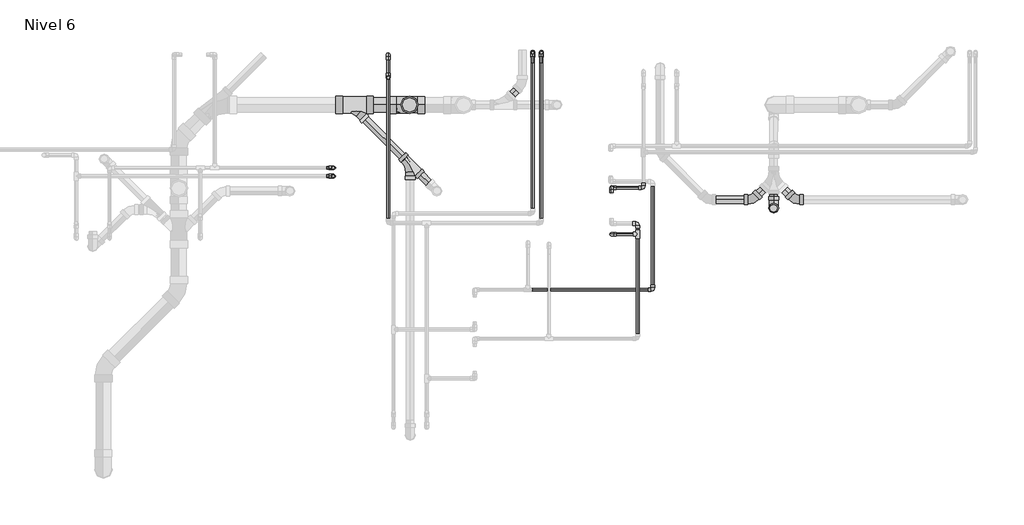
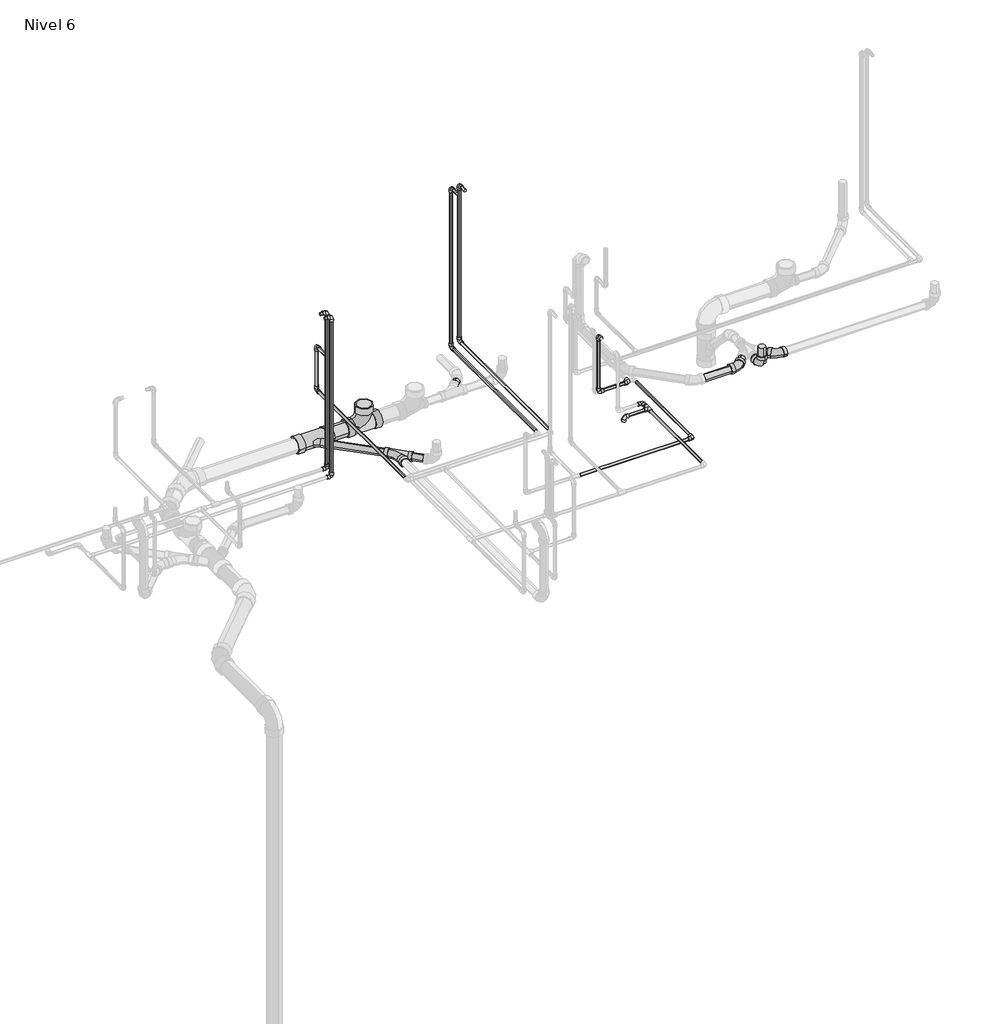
# One storey, part 5 of 11: 32 pipe segments, 24 pipe fittings.
"""IFC4 building model written with IfcOpenShell, lengths in millimetres."""

from ifc_helpers import new_model, si_unit, point, frame, frame_2d, origin, place, context, project, spatial, circle_curve, trimmed, segment, composite_curve, outline, extrude, transform, mapped, element, save
from components import pipe_fitting_ab418b84, pipe_fitting_0163322b, pipe_fitting_2a8dfbef, pipe_fitting_ef5974f2, m_codo_pvc_serie_40_9ad74631, m_codo_pvc_serie_40_dwv1_5c0ec739, m_codo_pvc_serie_40_dwv1_6f1a2495

model = new_model("IFC4")

# Units and contexts
model_context = context("Model", 3, world=origin())
ifc_project = project(units=[si_unit("LENGTHUNIT", "METRE", prefix="MILLI")], contexts=[model_context])

# Site, building, storey
site = spatial("IfcSite", under=ifc_project)
building = spatial("IfcBuilding", under=site)
storey = spatial("IfcBuildingStorey", under=building, Name="Nivel 6", Elevation=13400.0)

# Pipe fittings
placement = place(None, origin())
pipe_fitting_shape = pipe_fitting_ab418b84(model_context)
element("IfcPipeFitting", 1, ObjectType="M_Te - PVC - Serie 40 : Estándar", at=placement, inside=storey, context=model_context, shape_type="MappedRepresentation", body=[
    mapped(pipe_fitting_shape, transform((6459.9908844, 5630.9035113, 13350.0), x_axis=(0.0, 1.0, 0.0), y_axis=(1.0, 0.0, 0.0), z_axis=(0.0, 0.0, -1.0))),
])
pipe_fitting_2_shape = pipe_fitting_0163322b(model_context)
element("IfcPipeFitting", 2, ObjectType="M_Sanitario con te de reducción - PVC - Serie 40 - DWV : Estándar", at=placement, inside=storey, context=model_context, shape_type="MappedRepresentation", body=[
    mapped(pipe_fitting_2_shape, transform((4835.094316, 6132.0580366, 13250.0), x_axis=(0.7071067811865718, -0.7071067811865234, 0.0), y_axis=(0.7071067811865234, 0.7071067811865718, 0.0), z_axis=(0.0, 0.0, 1.0))),
])
pipe_fitting_3_shape = pipe_fitting_2a8dfbef(model_context)
element("IfcPipeFitting", 3, ObjectType="M_Sanitario con te de reducción - PVC - Serie 40 - DWV : Estándar", at=placement, inside=storey, context=model_context, shape_type="MappedRepresentation", body=[
    mapped(pipe_fitting_3_shape, transform((4831.2907555, 6555.7039726, 13250.0), x_axis=(1.0, 0.0, 0.0), y_axis=(0.0, 0.0, -1.0), z_axis=(0.0, 1.0, 0.0))),
])
pipe_fitting_4_shape = pipe_fitting_ef5974f2(model_context)
element("IfcPipeFitting", 4, ObjectType="M_Sanitario con te de reducción - PVC - Serie 40 - DWV : Estándar", at=placement, inside=storey, context=model_context, shape_type="MappedRepresentation", body=[
    mapped(pipe_fitting_4_shape, transform((4411.4483799, 6555.7039726, 13250.0), x_axis=(1.0, 0.0, 0.0), y_axis=(0.0, 1.0, 0.0), z_axis=(0.0, 0.0, 1.0))),
])
m_codo_pvc_serie_40_shape = m_codo_pvc_serie_40_9ad74631(model_context)
element("IfcPipeFitting", 5, ObjectType="M_Codo - PVC - Serie 40 : Estándar", at=placement, inside=storey, context=model_context, shape_type="MappedRepresentation", body=[
    mapped(m_codo_pvc_serie_40_shape, transform((4288.6334401, 6105.419153, 13350.0), x_axis=(1.0, 0.0, 0.0), y_axis=(0.0, 0.0, 1.0), z_axis=(0.0, -1.0, 0.0))),
])
element("IfcPipeFitting", 6, ObjectType="M_Codo - PVC - Serie 40 : Estándar", at=placement, inside=storey, context=model_context, shape_type="MappedRepresentation", body=[
    mapped(m_codo_pvc_serie_40_shape, transform((4288.6334401, 6105.419153, 14600.0), x_axis=(0.0, 0.0, 1.0), y_axis=(-1.0, 0.0, 0.0), z_axis=(0.0, -1.0, 0.0))),
])
element("IfcPipeFitting", 7, ObjectType="M_Codo - PVC - Serie 40 : Estándar", at=placement, inside=storey, context=model_context, shape_type="MappedRepresentation", body=[
    mapped(m_codo_pvc_serie_40_shape, transform((4288.6334401, 6045.419153, 14600.0), x_axis=(0.0, 0.0, 1.0), y_axis=(-1.0, 0.0, 0.0), z_axis=(0.0, -1.0, 0.0))),
])
element("IfcPipeFitting", 8, ObjectType="M_Codo - PVC - Serie 40 : Estándar", at=placement, inside=storey, context=model_context, shape_type="MappedRepresentation", body=[
    mapped(m_codo_pvc_serie_40_shape, transform((4288.6334401, 6045.419153, 13320.0), x_axis=(0.0, 0.0, -1.0), y_axis=(-1.0, 0.0, 0.0), z_axis=(0.0, 1.0, 0.0))),
])
element("IfcPipeFitting", 9, ObjectType="M_Codo - PVC - Serie 40 : Estándar", at=placement, inside=storey, context=model_context, shape_type="MappedRepresentation", body=[
    mapped(m_codo_pvc_serie_40_shape, transform((6273.0126322, 5963.0981896, 13800.0), x_axis=(0.0, 1.0, 0.0), y_axis=(0.0, 0.0, -1.0), z_axis=(-1.0, 0.0, 0.0))),
])
element("IfcPipeFitting", 10, ObjectType="M_Codo - PVC - Serie 40 : Estándar", at=placement, inside=storey, context=model_context, shape_type="MappedRepresentation", body=[
    mapped(m_codo_pvc_serie_40_shape, transform((6501.6215833, 5963.0981896, 13350.0), x_axis=(1.0, 0.0, 0.0), y_axis=(0.0, 1.0, 0.0), z_axis=(0.0, 0.0, 1.0))),
])
element("IfcPipeFitting", 11, ObjectType="M_Codo - PVC - Serie 40 : Estándar", at=placement, inside=storey, context=model_context, shape_type="MappedRepresentation", body=[
    mapped(m_codo_pvc_serie_40_shape, transform((6273.0126322, 5963.0981896, 13350.0), x_axis=(0.0, 0.0, -1.0), y_axis=(1.0, 0.0, 0.0), z_axis=(0.0, -1.0, 0.0))),
])
element("IfcPipeFitting", 12, ObjectType="M_Codo - PVC - Serie 40 : Estándar", at=placement, inside=storey, context=model_context, shape_type="MappedRepresentation", body=[
    mapped(m_codo_pvc_serie_40_shape, transform((5773.0126322, 6931.6711332, 13350.0), x_axis=(0.0, 1.0, 0.0), y_axis=(0.0, 0.0, 1.0), z_axis=(1.0, 0.0, 0.0))),
])
element("IfcPipeFitting", 13, ObjectType="M_Codo - PVC - Serie 40 : Estándar", at=placement, inside=storey, context=model_context, shape_type="MappedRepresentation", body=[
    mapped(m_codo_pvc_serie_40_shape, transform((5773.0126322, 6931.6711332, 14600.0), x_axis=(0.0, 0.0, 1.0), y_axis=(0.0, -1.0, 0.0), z_axis=(1.0, 0.0, 0.0))),
])
element("IfcPipeFitting", 14, ObjectType="M_Codo - PVC - Serie 40 : Estándar", at=placement, inside=storey, context=model_context, shape_type="MappedRepresentation", body=[
    mapped(m_codo_pvc_serie_40_shape, transform((5711.6896051, 6931.6711332, 13320.0), x_axis=(0.0, 1.0, 0.0), y_axis=(0.0, 0.0, 1.0), z_axis=(1.0, 0.0, 0.0))),
])
element("IfcPipeFitting", 15, ObjectType="M_Codo - PVC - Serie 40 : Estándar", at=placement, inside=storey, context=model_context, shape_type="MappedRepresentation", body=[
    mapped(m_codo_pvc_serie_40_shape, transform((5711.6896051, 6931.6711332, 14600.0), x_axis=(0.0, 0.0, 1.0), y_axis=(0.0, -1.0, 0.0), z_axis=(1.0, 0.0, 0.0))),
])
element("IfcPipeFitting", 16, ObjectType="M_Codo - PVC - Serie 40 : Estándar", at=placement, inside=storey, context=model_context, shape_type="MappedRepresentation", body=[
    mapped(m_codo_pvc_serie_40_shape, transform((4677.808318, 6748.6807861, 13700.0), x_axis=(0.0, 0.0, -1.0), y_axis=(0.0, 1.0, 0.0), z_axis=(1.0, 0.0, 0.0))),
])
element("IfcPipeFitting", 17, ObjectType="M_Codo - PVC - Serie 40 : Estándar", at=placement, inside=storey, context=model_context, shape_type="MappedRepresentation", body=[
    mapped(m_codo_pvc_serie_40_shape, transform((4677.808318, 6913.6807861, 13700.0), x_axis=(0.0, 1.0, 0.0), y_axis=(0.0, 0.0, -1.0), z_axis=(-1.0, 0.0, 0.0))),
])
element("IfcPipeFitting", 18, ObjectType="M_Codo - PVC - Serie 40 : Estándar", at=placement, inside=storey, context=model_context, shape_type="MappedRepresentation", body=[
    mapped(m_codo_pvc_serie_40_shape, transform((4677.808318, 6913.6807861, 13350.0), x_axis=(0.0, 0.0, -1.0), y_axis=(0.0, -1.0, 0.0), z_axis=(-1.0, 0.0, 0.0))),
])
element("IfcPipeFitting", 19, ObjectType="M_Codo - PVC - Serie 40 : Estándar", at=placement, inside=storey, context=model_context, shape_type="MappedRepresentation", body=[
    mapped(m_codo_pvc_serie_40_shape, transform((6567.9182604, 5234.4268515, 13320.0), x_axis=(1.0, 0.0, 0.0), y_axis=(0.0, 1.0, 0.0), z_axis=(0.0, 0.0, 1.0))),
])
element("IfcPipeFitting", 20, ObjectType="M_Codo - PVC - Serie 40 : Estándar", at=placement, inside=storey, context=model_context, shape_type="MappedRepresentation", body=[
    mapped(m_codo_pvc_serie_40_shape, transform((6459.9908844, 5708.0981896, 13350.0), x_axis=(0.0, 1.0, 0.0), y_axis=(-1.0, 0.0, 0.0), z_axis=(0.0, 0.0, 1.0))),
])
element("IfcPipeFitting", 21, ObjectType="M_Codo - PVC - Serie 40 : Estándar", at=placement, inside=storey, context=model_context, shape_type="MappedRepresentation", body=[
    mapped(m_codo_pvc_serie_40_shape, transform((6273.0126322, 5630.9035113, 13350.0), x_axis=(-1.0, 0.0, 0.0), y_axis=(0.0, 0.0002933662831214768, -0.9999999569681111), z_axis=(0.0, -0.9999999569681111, -0.0002933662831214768))),
])
m_codo_pvc_serie_40_dwv1_shape = m_codo_pvc_serie_40_dwv1_5c0ec739(model_context)
element("IfcPipeFitting", 22, ObjectType="M_Codo - PVC - Serie 40 - DWV1 : Estándar 2", at=placement, inside=storey, context=model_context, shape_type="MappedRepresentation", body=[
    mapped(m_codo_pvc_serie_40_dwv1_shape, transform((7431.4931519, 5816.7854242, 13250.0), x_axis=(0.0, -1.0, 0.0), y_axis=(0.0, 0.0, 1.0), z_axis=(-1.0, 0.0, 0.0))),
])
m_codo_pvc_serie_40_dwv1_2_shape = m_codo_pvc_serie_40_dwv1_6f1a2495(model_context)
element("IfcPipeFitting", 23, ObjectType="M_Codo - PVC - Serie 40 - DWV1 : Estándar 2", at=placement, inside=storey, context=model_context, shape_type="MappedRepresentation", body=[
    mapped(m_codo_pvc_serie_40_dwv1_2_shape, transform((7281.5940722, 5877.7956387, 13250.0), x_axis=(1.0, 0.0, 0.0), y_axis=(0.0, 1.0, 0.0), z_axis=(0.0, 0.0, 1.0))),
])
element("IfcPipeFitting", 24, ObjectType="M_Codo - PVC - Serie 40 - DWV1 : Estándar 2", at=placement, inside=storey, context=model_context, shape_type="MappedRepresentation", body=[
    mapped(m_codo_pvc_serie_40_dwv1_2_shape, transform((7581.3922316, 5877.7956387, 13250.0), x_axis=(0.7071067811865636, -0.7071067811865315, 0.0), y_axis=(0.7071067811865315, 0.7071067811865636, 0.0), z_axis=(0.0, 0.0, 1.0))),
])

# Pipe segments
element("IfcPipeSegment", 25, ObjectType="Tuberia PVC Agua Fria", at=placement, inside=storey, context=model_context, shape_type="SweptSolid", body=[
    extrude(outline(composite_curve([segment(trimmed(circle_curve(frame_2d((6105.419153, 14600.0)), 10.31875), [point((6115.737903, 14600.0))], [point((6105.419153, 14589.68125))], False, "CARTESIAN"), True, "CONTINUOUS"), segment(trimmed(circle_curve(frame_2d((6105.419153, 14600.0)), 10.31875), [point((6105.419153, 14589.68125))], [point((6095.100403, 14600.0))], False, "CARTESIAN"), True, "CONTINUOUS"), segment(trimmed(circle_curve(frame_2d((6105.419153, 14600.0)), 10.31875), [point((6095.100403, 14600.0))], [point((6105.419153, 14610.31875))], False, "CARTESIAN"), True, "CONTINUOUS"), segment(trimmed(circle_curve(frame_2d((6105.419153, 14600.0)), 10.31875), [point((6105.419153, 14610.31875))], [point((6115.737903, 14600.0))], False, "CARTESIAN"), True, "CONTINUOUS")], self_intersect=False)), frame((4238.6334401, 0.0, 0.0), z_axis=(1.0, 0.0, 0.0), x_axis=(0.0, 1.0, 0.0)), (0.0, 0.0, 1.0), 16.599),
])
element("IfcPipeSegment", 26, ObjectType="Tuberia PVC Agua Fria", at=placement, inside=storey, context=model_context, shape_type="SweptSolid", body=[
    extrude(outline(composite_curve([segment(trimmed(circle_curve(frame_2d((4288.6334401, 6105.419153)), 10.31875), [point((4278.3146901, 6105.419153))], [point((4288.6334401, 6115.737903))], False, "CARTESIAN"), True, "CONTINUOUS"), segment(trimmed(circle_curve(frame_2d((4288.6334401, 6105.419153)), 10.31875), [point((4288.6334401, 6115.737903))], [point((4298.9521901, 6105.419153))], False, "CARTESIAN"), True, "CONTINUOUS"), segment(trimmed(circle_curve(frame_2d((4288.6334401, 6105.419153)), 10.31875), [point((4298.9521901, 6105.419153))], [point((4288.6334401, 6095.100403))], False, "CARTESIAN"), True, "CONTINUOUS"), segment(trimmed(circle_curve(frame_2d((4288.6334401, 6105.419153)), 10.31875), [point((4288.6334401, 6095.100403))], [point((4278.3146901, 6105.419153))], False, "CARTESIAN"), True, "CONTINUOUS")], self_intersect=False)), frame((0.0, 0.0, 13383.401), z_axis=(0.0, 0.0, 1.0), x_axis=(1.0, 0.0, 0.0)), (0.0, 0.0, 1.0), 1183.198),
])
element("IfcPipeSegment", 27, ObjectType="Tuberia PVC Agua Fria", at=placement, inside=storey, context=model_context, shape_type="SweptSolid", body=[
    extrude(outline(composite_curve([segment(trimmed(circle_curve(frame_2d((5963.0981896, 13350.0)), 10.31875), [point((5973.4169396, 13350.0))], [point((5963.0981896, 13339.68125))], False, "CARTESIAN"), True, "CONTINUOUS"), segment(trimmed(circle_curve(frame_2d((5963.0981896, 13350.0)), 10.31875), [point((5963.0981896, 13339.68125))], [point((5952.7794396, 13350.0))], False, "CARTESIAN"), True, "CONTINUOUS"), segment(trimmed(circle_curve(frame_2d((5963.0981896, 13350.0)), 10.31875), [point((5952.7794396, 13350.0))], [point((5963.0981896, 13360.31875))], False, "CARTESIAN"), True, "CONTINUOUS"), segment(trimmed(circle_curve(frame_2d((5963.0981896, 13350.0)), 10.31875), [point((5963.0981896, 13360.31875))], [point((5973.4169396, 13350.0))], False, "CARTESIAN"), True, "CONTINUOUS")], self_intersect=False)), frame((6306.4136322, 0.0, 0.0), z_axis=(1.0, 0.0, 0.0), x_axis=(0.0, 1.0, 0.0)), (0.0, 0.0, 1.0), 161.8069512),
])
element("IfcPipeSegment", 28, ObjectType="Tuberia PVC Agua Fria", at=placement, inside=storey, context=model_context, shape_type="SweptSolid", body=[
    extrude(outline(composite_curve([segment(trimmed(circle_curve(frame_2d((6273.0126322, 5963.0981896)), 10.31875), [point((6283.3313822, 5963.0981896))], [point((6273.0126322, 5952.7794396))], False, "CARTESIAN"), True, "CONTINUOUS"), segment(trimmed(circle_curve(frame_2d((6273.0126322, 5963.0981896)), 10.31875), [point((6273.0126322, 5952.7794396))], [point((6262.6938822, 5963.0981896))], False, "CARTESIAN"), True, "CONTINUOUS"), segment(trimmed(circle_curve(frame_2d((6273.0126322, 5963.0981896)), 10.31875), [point((6262.6938822, 5963.0981896))], [point((6273.0126322, 5973.4169396))], False, "CARTESIAN"), True, "CONTINUOUS"), segment(trimmed(circle_curve(frame_2d((6273.0126322, 5963.0981896)), 10.31875), [point((6273.0126322, 5973.4169396))], [point((6283.3313822, 5963.0981896))], False, "CARTESIAN"), True, "CONTINUOUS")], self_intersect=False)), frame((0.0, 0.0, 13383.401), z_axis=(0.0, 0.0, 1.0), x_axis=(1.0, 0.0, 0.0)), (0.0, 0.0, 1.0), 383.198),
])
element("IfcPipeSegment", 29, ObjectType="Tuberia PVC Agua Fria", at=placement, inside=storey, context=model_context, shape_type="SweptSolid", body=[
    extrude(outline(composite_curve([segment(trimmed(circle_curve(frame_2d((13800.0, 6273.0126322)), 10.31875), [point((13800.0, 6283.3313822))], [point((13810.31875, 6273.0126322))], False, "CARTESIAN"), True, "CONTINUOUS"), segment(trimmed(circle_curve(frame_2d((13800.0, 6273.0126322)), 10.31875), [point((13810.31875, 6273.0126322))], [point((13800.0, 6262.6938822))], False, "CARTESIAN"), True, "CONTINUOUS"), segment(trimmed(circle_curve(frame_2d((13800.0, 6273.0126322)), 10.31875), [point((13800.0, 6262.6938822))], [point((13789.68125, 6273.0126322))], False, "CARTESIAN"), True, "CONTINUOUS"), segment(trimmed(circle_curve(frame_2d((13800.0, 6273.0126322)), 10.31875), [point((13789.68125, 6273.0126322))], [point((13800.0, 6283.3313822))], False, "CARTESIAN"), True, "CONTINUOUS")], self_intersect=False)), frame((0.0, 5741.4991896, 0.0), z_axis=(0.0, 1.0, 0.0), x_axis=(0.0, 0.0, 1.0)), (0.0, 0.0, 1.0), 2.599),
])
element("IfcPipeSegment", 30, ObjectType="Tuberia PVC Agua Fria", at=placement, inside=storey, context=model_context, shape_type="SweptSolid", body=[
    extrude(outline(composite_curve([segment(trimmed(circle_curve(frame_2d((13350.0, 5773.0126322)), 10.31875), [point((13350.0, 5783.3313822))], [point((13360.31875, 5773.0126322))], False, "CARTESIAN"), True, "CONTINUOUS"), segment(trimmed(circle_curve(frame_2d((13350.0, 5773.0126322)), 10.31875), [point((13360.31875, 5773.0126322))], [point((13350.0, 5762.6938822))], False, "CARTESIAN"), True, "CONTINUOUS"), segment(trimmed(circle_curve(frame_2d((13350.0, 5773.0126322)), 10.31875), [point((13350.0, 5762.6938822))], [point((13339.68125, 5773.0126322))], False, "CARTESIAN"), True, "CONTINUOUS"), segment(trimmed(circle_curve(frame_2d((13350.0, 5773.0126322)), 10.31875), [point((13339.68125, 5773.0126322))], [point((13350.0, 5783.3313822))], False, "CARTESIAN"), True, "CONTINUOUS")], self_intersect=False)), frame((0.0, 5743.2880077, 0.0), z_axis=(0.0, 1.0, 0.0), x_axis=(0.0, 0.0, 1.0)), (0.0, 0.0, 1.0), 1154.9821255),
])
element("IfcPipeSegment", 31, ObjectType="Tuberia PVC Agua Fria", at=placement, inside=storey, context=model_context, shape_type="SweptSolid", body=[
    extrude(outline(composite_curve([segment(trimmed(circle_curve(frame_2d((14600.0, 5773.0126322)), 10.31875), [point((14600.0, 5762.6938822))], [point((14589.68125, 5773.0126322))], False, "CARTESIAN"), True, "CONTINUOUS"), segment(trimmed(circle_curve(frame_2d((14600.0, 5773.0126322)), 10.31875), [point((14589.68125, 5773.0126322))], [point((14600.0, 5783.3313822))], False, "CARTESIAN"), True, "CONTINUOUS"), segment(trimmed(circle_curve(frame_2d((14600.0, 5773.0126322)), 10.31875), [point((14600.0, 5783.3313822))], [point((14610.31875, 5773.0126322))], False, "CARTESIAN"), True, "CONTINUOUS"), segment(trimmed(circle_curve(frame_2d((14600.0, 5773.0126322)), 10.31875), [point((14610.31875, 5773.0126322))], [point((14600.0, 5762.6938822))], False, "CARTESIAN"), True, "CONTINUOUS")], self_intersect=False)), frame((0.0, 6856.6711332, 0.0), z_axis=(0.0, 1.0, 0.0), x_axis=(0.0, 0.0, 1.0)), (0.0, 0.0, 1.0), 41.599),
])
element("IfcPipeSegment", 32, ObjectType="Tuberia PVC Agua Fria", at=placement, inside=storey, context=model_context, shape_type="SweptSolid", body=[
    extrude(outline(composite_curve([segment(trimmed(circle_curve(frame_2d((5773.0126322, 6931.6711332)), 10.31875), [point((5762.6938822, 6931.6711332))], [point((5773.0126322, 6941.9898832))], False, "CARTESIAN"), True, "CONTINUOUS"), segment(trimmed(circle_curve(frame_2d((5773.0126322, 6931.6711332)), 10.31875), [point((5773.0126322, 6941.9898832))], [point((5783.3313822, 6931.6711332))], False, "CARTESIAN"), True, "CONTINUOUS"), segment(trimmed(circle_curve(frame_2d((5773.0126322, 6931.6711332)), 10.31875), [point((5783.3313822, 6931.6711332))], [point((5773.0126322, 6921.3523832))], False, "CARTESIAN"), True, "CONTINUOUS"), segment(trimmed(circle_curve(frame_2d((5773.0126322, 6931.6711332)), 10.31875), [point((5773.0126322, 6921.3523832))], [point((5762.6938822, 6931.6711332))], False, "CARTESIAN"), True, "CONTINUOUS")], self_intersect=False)), frame((0.0, 0.0, 13383.401), z_axis=(0.0, 0.0, 1.0), x_axis=(1.0, 0.0, 0.0)), (0.0, 0.0, 1.0), 1183.198),
])
element("IfcPipeSegment", 33, ObjectType="Tuberia PVC Agua Fria", at=placement, inside=storey, context=model_context, shape_type="SweptSolid", body=[
    extrude(outline(composite_curve([segment(trimmed(circle_curve(frame_2d((13700.0, 4677.808318)), 10.31875), [point((13700.0, 4688.127068))], [point((13710.31875, 4677.808318))], False, "CARTESIAN"), True, "CONTINUOUS"), segment(trimmed(circle_curve(frame_2d((13700.0, 4677.808318)), 10.31875), [point((13710.31875, 4677.808318))], [point((13700.0, 4667.489568))], False, "CARTESIAN"), True, "CONTINUOUS"), segment(trimmed(circle_curve(frame_2d((13700.0, 4677.808318)), 10.31875), [point((13700.0, 4667.489568))], [point((13689.68125, 4677.808318))], False, "CARTESIAN"), True, "CONTINUOUS"), segment(trimmed(circle_curve(frame_2d((13700.0, 4677.808318)), 10.31875), [point((13689.68125, 4677.808318))], [point((13700.0, 4688.127068))], False, "CARTESIAN"), True, "CONTINUOUS")], self_intersect=False)), frame((0.0, 6782.0817861, 0.0), z_axis=(0.0, 1.0, 0.0), x_axis=(0.0, 0.0, 1.0)), (0.0, 0.0, 1.0), 98.198),
])
element("IfcPipeSegment", 34, ObjectType="Tuberia PVC Agua Fria", at=placement, inside=storey, context=model_context, shape_type="SweptSolid", body=[
    extrude(outline(composite_curve([segment(trimmed(circle_curve(frame_2d((4677.808318, 6748.6807861)), 10.31875), [point((4688.127068, 6748.6807861))], [point((4677.808318, 6738.3620361))], False, "CARTESIAN"), True, "CONTINUOUS"), segment(trimmed(circle_curve(frame_2d((4677.808318, 6748.6807861)), 10.31875), [point((4677.808318, 6738.3620361))], [point((4667.489568, 6748.6807861))], False, "CARTESIAN"), True, "CONTINUOUS"), segment(trimmed(circle_curve(frame_2d((4677.808318, 6748.6807861)), 10.31875), [point((4667.489568, 6748.6807861))], [point((4677.808318, 6758.9995361))], False, "CARTESIAN"), True, "CONTINUOUS"), segment(trimmed(circle_curve(frame_2d((4677.808318, 6748.6807861)), 10.31875), [point((4677.808318, 6758.9995361))], [point((4688.127068, 6748.6807861))], False, "CARTESIAN"), True, "CONTINUOUS")], self_intersect=False)), frame((0.0, 0.0, 13733.401), z_axis=(0.0, 0.0, 1.0), x_axis=(1.0, 0.0, 0.0)), (0.0, 0.0, 1.0), 39.7562509),
])
element("IfcPipeSegment", 35, ObjectType="Tuberia PVC Agua Fria", at=placement, inside=storey, context=model_context, shape_type="SweptSolid", body=[
    extrude(outline(composite_curve([segment(trimmed(circle_curve(frame_2d((13350.0, 4677.808318)), 10.31875), [point((13350.0, 4667.489568))], [point((13339.68125, 4677.808318))], False, "CARTESIAN"), True, "CONTINUOUS"), segment(trimmed(circle_curve(frame_2d((13350.0, 4677.808318)), 10.31875), [point((13339.68125, 4677.808318))], [point((13350.0, 4688.127068))], False, "CARTESIAN"), True, "CONTINUOUS"), segment(trimmed(circle_curve(frame_2d((13350.0, 4677.808318)), 10.31875), [point((13350.0, 4688.127068))], [point((13360.31875, 4677.808318))], False, "CARTESIAN"), True, "CONTINUOUS"), segment(trimmed(circle_curve(frame_2d((13350.0, 4677.808318)), 10.31875), [point((13360.31875, 4677.808318))], [point((13350.0, 4667.489568))], False, "CARTESIAN"), True, "CONTINUOUS")], self_intersect=False)), frame((0.0, 5743.2880077, 0.0), z_axis=(0.0, 1.0, 0.0), x_axis=(0.0, 0.0, 1.0)), (0.0, 0.0, 1.0), 1136.9917784),
])
element("IfcPipeSegment", 36, ObjectType="Tuberia PVC Agua Fria", at=placement, inside=storey, context=model_context, shape_type="SweptSolid", body=[
    extrude(outline(composite_curve([segment(trimmed(circle_curve(frame_2d((4677.808318, 6913.6807861)), 10.31875), [point((4688.127068, 6913.6807861))], [point((4677.808318, 6903.3620361))], False, "CARTESIAN"), True, "CONTINUOUS"), segment(trimmed(circle_curve(frame_2d((4677.808318, 6913.6807861)), 10.31875), [point((4677.808318, 6903.3620361))], [point((4667.489568, 6913.6807861))], False, "CARTESIAN"), True, "CONTINUOUS"), segment(trimmed(circle_curve(frame_2d((4677.808318, 6913.6807861)), 10.31875), [point((4667.489568, 6913.6807861))], [point((4677.808318, 6923.9995361))], False, "CARTESIAN"), True, "CONTINUOUS"), segment(trimmed(circle_curve(frame_2d((4677.808318, 6913.6807861)), 10.31875), [point((4677.808318, 6923.9995361))], [point((4688.127068, 6913.6807861))], False, "CARTESIAN"), True, "CONTINUOUS")], self_intersect=False)), frame((0.0, 0.0, 13383.401), z_axis=(0.0, 0.0, 1.0), x_axis=(1.0, 0.0, 0.0)), (0.0, 0.0, 1.0), 283.198),
])
element("IfcPipeSegment", 37, ObjectType="Tuberia PVC Agua Fria", at=placement, inside=storey, context=model_context, shape_type="SweptSolid", body=[
    extrude(outline(composite_curve([segment(trimmed(circle_curve(frame_2d((13350.0, 6459.9908844)), 10.31875), [point((13350.0, 6449.6721344))], [point((13339.68125, 6459.9908844))], False, "CARTESIAN"), True, "CONTINUOUS"), segment(trimmed(circle_curve(frame_2d((13350.0, 6459.9908844)), 10.31875), [point((13339.68125, 6459.9908844))], [point((13350.0, 6470.3096344))], False, "CARTESIAN"), True, "CONTINUOUS"), segment(trimmed(circle_curve(frame_2d((13350.0, 6459.9908844)), 10.31875), [point((13350.0, 6470.3096344))], [point((13360.31875, 6459.9908844))], False, "CARTESIAN"), True, "CONTINUOUS"), segment(trimmed(circle_curve(frame_2d((13350.0, 6459.9908844)), 10.31875), [point((13360.31875, 6459.9908844))], [point((13350.0, 6449.6721344))], False, "CARTESIAN"), True, "CONTINUOUS")], self_intersect=False)), frame((0.0, 4917.8278515, 0.0), z_axis=(0.0, 1.0, 0.0), x_axis=(0.0, 0.0, 1.0)), (0.0, 0.0, 1.0), 682.6155035),
])
element("IfcPipeSegment", 38, ObjectType="Tuberia PVC VENTILACION", at=placement, inside=storey, context=model_context, shape_type="SweptSolid", body=[
    extrude(outline(composite_curve([segment(trimmed(circle_curve(frame_2d((0.0, -26.9875)), 26.9875), [point((-26.9875, -26.9875))], [point((0.0, 0.0))], False, "CARTESIAN"), True, "CONTINUOUS"), segment(trimmed(circle_curve(frame_2d((0.0, -26.9875)), 26.9875), [point((0.0, 0.0))], [point((26.9875, -26.9875))], False, "CARTESIAN"), True, "CONTINUOUS"), segment(trimmed(circle_curve(frame_2d((0.0, -26.9875)), 26.9875), [point((26.9875, -26.9875))], [point((0.0, -53.975))], False, "CARTESIAN"), True, "CONTINUOUS"), segment(trimmed(circle_curve(frame_2d((0.0, -26.9875)), 26.9875), [point((0.0, -53.975))], [point((-26.9875, -26.9875))], False, "CARTESIAN"), True, "CONTINUOUS")], self_intersect=False)), frame((5566.0881067, 6632.6637824, 13223.0125), z_axis=(0.7071067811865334, 0.7071067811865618, 0.0), x_axis=(0.7071067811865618, -0.7071067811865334, 0.0)), (0.0, 0.0, 1.0), 38.8103242),
])
element("IfcPipeSegment", 39, ObjectType="Tuberia PVC Agua Fria", at=placement, inside=storey, context=model_context, shape_type="SweptSolid", body=[
    extrude(outline(composite_curve([segment(trimmed(circle_curve(frame_2d((5630.9035113, 13350.0)), 10.31875), [point((5641.2222613, 13350.0))], [point((5630.9035113, 13339.68125))], False, "CARTESIAN"), True, "CONTINUOUS"), segment(trimmed(circle_curve(frame_2d((5630.9035113, 13350.0)), 10.31875), [point((5630.9035113, 13339.68125))], [point((5620.5847613, 13350.0))], False, "CARTESIAN"), True, "CONTINUOUS"), segment(trimmed(circle_curve(frame_2d((5630.9035113, 13350.0)), 10.31875), [point((5620.5847613, 13350.0))], [point((5630.9035113, 13360.31875))], False, "CARTESIAN"), True, "CONTINUOUS"), segment(trimmed(circle_curve(frame_2d((5630.9035113, 13350.0)), 10.31875), [point((5630.9035113, 13360.31875))], [point((5641.2222613, 13350.0))], False, "CARTESIAN"), True, "CONTINUOUS")], self_intersect=False)), frame((6306.4136322, 0.0, 0.0), z_axis=(1.0, 0.0, 0.0), x_axis=(0.0, 1.0, 0.0)), (0.0, 0.0, 1.0), 123.117096),
])
element("IfcPipeSegment", 40, ObjectType="Tuberia PVC Agua Fria", at=placement, inside=storey, context=model_context, shape_type="SweptSolid", body=[
    extrude(outline(composite_curve([segment(trimmed(circle_curve(frame_2d((0.0, -10.31875)), 10.31875), [point((0.0, 0.0))], [point((10.31875, -10.31875))], False, "CARTESIAN"), True, "CONTINUOUS"), segment(trimmed(circle_curve(frame_2d((0.0, -10.31875)), 10.31875), [point((10.31875, -10.31875))], [point((0.0, -20.6375))], False, "CARTESIAN"), True, "CONTINUOUS"), segment(trimmed(circle_curve(frame_2d((0.0, -10.31875)), 10.31875), [point((0.0, -20.6375))], [point((-10.31875, -10.31875))], False, "CARTESIAN"), True, "CONTINUOUS"), segment(trimmed(circle_curve(frame_2d((0.0, -10.31875)), 10.31875), [point((-10.31875, -10.31875))], [point((0.0, 0.0))], False, "CARTESIAN"), True, "CONTINUOUS")], self_intersect=False)), frame((6449.6721344, 5661.3636675, 13350.0), z_axis=(1.941421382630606e-12, 1.0, 0.0), x_axis=(0.0, 0.0, -1.0)), (0.0, 0.0, 1.0), 13.3335221),
])
element("IfcPipeSegment", 41, ObjectType="Tuberia PVC Agua Caliente", at=placement, inside=storey, context=model_context, shape_type="SweptSolid", body=[
    extrude(outline(composite_curve([segment(trimmed(circle_curve(frame_2d((6045.419153, 14600.0)), 10.31875), [point((6055.737903, 14600.0))], [point((6045.419153, 14589.68125))], False, "CARTESIAN"), True, "CONTINUOUS"), segment(trimmed(circle_curve(frame_2d((6045.419153, 14600.0)), 10.31875), [point((6045.419153, 14589.68125))], [point((6035.100403, 14600.0))], False, "CARTESIAN"), True, "CONTINUOUS"), segment(trimmed(circle_curve(frame_2d((6045.419153, 14600.0)), 10.31875), [point((6035.100403, 14600.0))], [point((6045.419153, 14610.31875))], False, "CARTESIAN"), True, "CONTINUOUS"), segment(trimmed(circle_curve(frame_2d((6045.419153, 14600.0)), 10.31875), [point((6045.419153, 14610.31875))], [point((6055.737903, 14600.0))], False, "CARTESIAN"), True, "CONTINUOUS")], self_intersect=False)), frame((4238.6334401, 0.0, 0.0), z_axis=(1.0, 0.0, 0.0), x_axis=(0.0, 1.0, 0.0)), (0.0, 0.0, 1.0), 16.599),
])
element("IfcPipeSegment", 42, ObjectType="Tuberia PVC Agua Caliente", at=placement, inside=storey, context=model_context, shape_type="SweptSolid", body=[
    extrude(outline(composite_curve([segment(trimmed(circle_curve(frame_2d((4288.6334401, 6045.419153)), 10.31875), [point((4278.3146901, 6045.419153))], [point((4288.6334401, 6055.737903))], False, "CARTESIAN"), True, "CONTINUOUS"), segment(trimmed(circle_curve(frame_2d((4288.6334401, 6045.419153)), 10.31875), [point((4288.6334401, 6055.737903))], [point((4298.9521901, 6045.419153))], False, "CARTESIAN"), True, "CONTINUOUS"), segment(trimmed(circle_curve(frame_2d((4288.6334401, 6045.419153)), 10.31875), [point((4298.9521901, 6045.419153))], [point((4288.6334401, 6035.100403))], False, "CARTESIAN"), True, "CONTINUOUS"), segment(trimmed(circle_curve(frame_2d((4288.6334401, 6045.419153)), 10.31875), [point((4288.6334401, 6035.100403))], [point((4278.3146901, 6045.419153))], False, "CARTESIAN"), True, "CONTINUOUS")], self_intersect=False)), frame((0.0, 0.0, 13353.401), z_axis=(0.0, 0.0, 1.0), x_axis=(1.0, 0.0, 0.0)), (0.0, 0.0, 1.0), 1213.198),
])
element("IfcPipeSegment", 43, ObjectType="Tuberia PVC Agua Caliente", at=placement, inside=storey, context=model_context, shape_type="SweptSolid", body=[
    extrude(outline(composite_curve([segment(trimmed(circle_curve(frame_2d((13320.0, 6567.9182604)), 10.31875), [point((13320.0, 6557.5995104))], [point((13309.68125, 6567.9182604))], False, "CARTESIAN"), True, "CONTINUOUS"), segment(trimmed(circle_curve(frame_2d((13320.0, 6567.9182604)), 10.31875), [point((13309.68125, 6567.9182604))], [point((13320.0, 6578.2370104))], False, "CARTESIAN"), True, "CONTINUOUS"), segment(trimmed(circle_curve(frame_2d((13320.0, 6567.9182604)), 10.31875), [point((13320.0, 6578.2370104))], [point((13330.31875, 6567.9182604))], False, "CARTESIAN"), True, "CONTINUOUS"), segment(trimmed(circle_curve(frame_2d((13320.0, 6567.9182604)), 10.31875), [point((13330.31875, 6567.9182604))], [point((13320.0, 6557.5995104))], False, "CARTESIAN"), True, "CONTINUOUS")], self_intersect=False)), frame((0.0, 5267.8278515, 0.0), z_axis=(0.0, 1.0, 0.0), x_axis=(0.0, 0.0, 1.0)), (0.0, 0.0, 1.0), 705.698),
])
element("IfcPipeSegment", 44, ObjectType="Tuberia PVC Agua Caliente", at=placement, inside=storey, context=model_context, shape_type="SweptSolid", body=[
    extrude(outline(composite_curve([segment(trimmed(circle_curve(frame_2d((13320.0, 5711.6896051)), 10.31875), [point((13320.0, 5722.0083551))], [point((13330.31875, 5711.6896051))], False, "CARTESIAN"), True, "CONTINUOUS"), segment(trimmed(circle_curve(frame_2d((13320.0, 5711.6896051)), 10.31875), [point((13330.31875, 5711.6896051))], [point((13320.0, 5701.3708551))], False, "CARTESIAN"), True, "CONTINUOUS"), segment(trimmed(circle_curve(frame_2d((13320.0, 5711.6896051)), 10.31875), [point((13320.0, 5701.3708551))], [point((13309.68125, 5711.6896051))], False, "CARTESIAN"), True, "CONTINUOUS"), segment(trimmed(circle_curve(frame_2d((13320.0, 5711.6896051)), 10.31875), [point((13309.68125, 5711.6896051))], [point((13320.0, 5722.0083551))], False, "CARTESIAN"), True, "CONTINUOUS")], self_intersect=False)), frame((0.0, 5813.2880077, 0.0), z_axis=(0.0, 1.0, 0.0), x_axis=(0.0, 0.0, 1.0)), (0.0, 0.0, 1.0), 1084.9821255),
])
element("IfcPipeSegment", 45, ObjectType="Tuberia PVC Agua Caliente", at=placement, inside=storey, context=model_context, shape_type="SweptSolid", body=[
    extrude(outline(composite_curve([segment(trimmed(circle_curve(frame_2d((14600.0, 5711.6896051)), 10.31875), [point((14600.0, 5701.3708551))], [point((14589.68125, 5711.6896051))], False, "CARTESIAN"), True, "CONTINUOUS"), segment(trimmed(circle_curve(frame_2d((14600.0, 5711.6896051)), 10.31875), [point((14589.68125, 5711.6896051))], [point((14600.0, 5722.0083551))], False, "CARTESIAN"), True, "CONTINUOUS"), segment(trimmed(circle_curve(frame_2d((14600.0, 5711.6896051)), 10.31875), [point((14600.0, 5722.0083551))], [point((14610.31875, 5711.6896051))], False, "CARTESIAN"), True, "CONTINUOUS"), segment(trimmed(circle_curve(frame_2d((14600.0, 5711.6896051)), 10.31875), [point((14610.31875, 5711.6896051))], [point((14600.0, 5701.3708551))], False, "CARTESIAN"), True, "CONTINUOUS")], self_intersect=False)), frame((0.0, 6856.6711332, 0.0), z_axis=(0.0, 1.0, 0.0), x_axis=(0.0, 0.0, 1.0)), (0.0, 0.0, 1.0), 41.599),
])
element("IfcPipeSegment", 46, ObjectType="Tuberia PVC Agua Caliente", at=placement, inside=storey, context=model_context, shape_type="SweptSolid", body=[
    extrude(outline(composite_curve([segment(trimmed(circle_curve(frame_2d((5711.6896051, 6931.6711332)), 10.31875), [point((5701.3708551, 6931.6711332))], [point((5711.6896051, 6941.9898832))], False, "CARTESIAN"), True, "CONTINUOUS"), segment(trimmed(circle_curve(frame_2d((5711.6896051, 6931.6711332)), 10.31875), [point((5711.6896051, 6941.9898832))], [point((5722.0083551, 6931.6711332))], False, "CARTESIAN"), True, "CONTINUOUS"), segment(trimmed(circle_curve(frame_2d((5711.6896051, 6931.6711332)), 10.31875), [point((5722.0083551, 6931.6711332))], [point((5711.6896051, 6921.3523832))], False, "CARTESIAN"), True, "CONTINUOUS"), segment(trimmed(circle_curve(frame_2d((5711.6896051, 6931.6711332)), 10.31875), [point((5711.6896051, 6921.3523832))], [point((5701.3708551, 6931.6711332))], False, "CARTESIAN"), True, "CONTINUOUS")], self_intersect=False)), frame((0.0, 0.0, 13353.401), z_axis=(0.0, 0.0, 1.0), x_axis=(1.0, 0.0, 0.0)), (0.0, 0.0, 1.0), 1213.198),
])
element("IfcPipeSegment", 47, ObjectType="Tuberia PVC Agua Caliente", at=placement, inside=storey, context=model_context, shape_type="SweptSolid", body=[
    extrude(outline(composite_curve([segment(trimmed(circle_curve(frame_2d((5234.4268515, 13320.0)), 10.31875), [point((5244.7456015, 13320.0))], [point((5234.4268515, 13309.68125))], False, "CARTESIAN"), True, "CONTINUOUS"), segment(trimmed(circle_curve(frame_2d((5234.4268515, 13320.0)), 10.31875), [point((5234.4268515, 13309.68125))], [point((5224.1081015, 13320.0))], False, "CARTESIAN"), True, "CONTINUOUS"), segment(trimmed(circle_curve(frame_2d((5234.4268515, 13320.0)), 10.31875), [point((5224.1081015, 13320.0))], [point((5234.4268515, 13330.31875))], False, "CARTESIAN"), True, "CONTINUOUS"), segment(trimmed(circle_curve(frame_2d((5234.4268515, 13320.0)), 10.31875), [point((5234.4268515, 13330.31875))], [point((5244.7456015, 13320.0))], False, "CARTESIAN"), True, "CONTINUOUS")], self_intersect=False)), frame((5707.1974206, 0.0, 0.0), z_axis=(1.0, 0.0, 0.0), x_axis=(0.0, 1.0, 0.0)), (0.0, 0.0, 1.0), 827.3198398),
])
element("IfcPipeSegment", 48, ObjectType="Tuberia PVC Sanitario", at=placement, inside=storey, context=model_context, shape_type="SweptSolid", body=[
    extrude(outline(composite_curve([segment(trimmed(circle_curve(frame_2d((5877.7956387, 13250.0)), 26.9875), [point((5904.7831387, 13250.0))], [point((5877.7956387, 13223.0125))], False, "CARTESIAN"), True, "CONTINUOUS"), segment(trimmed(circle_curve(frame_2d((5877.7956387, 13250.0)), 26.9875), [point((5877.7956387, 13223.0125))], [point((5850.8081387, 13250.0))], False, "CARTESIAN"), True, "CONTINUOUS"), segment(trimmed(circle_curve(frame_2d((5877.7956387, 13250.0)), 26.9875), [point((5850.8081387, 13250.0))], [point((5877.7956387, 13276.9875))], False, "CARTESIAN"), True, "CONTINUOUS"), segment(trimmed(circle_curve(frame_2d((5877.7956387, 13250.0)), 26.9875), [point((5877.7956387, 13276.9875))], [point((5904.7831387, 13250.0))], False, "CARTESIAN"), True, "CONTINUOUS")], self_intersect=False)), frame((7017.6325488, 0.0, 0.0), z_axis=(1.0, 0.0, 0.0), x_axis=(0.0, 1.0, 0.0)), (0.0, 0.0, 1.0), 203.5333359),
])
element("IfcPipeSegment", 49, ObjectType="Tuberia PVC Sanitario", at=placement, inside=storey, context=model_context, shape_type="SweptSolid", body=[
    extrude(outline(composite_curve([segment(trimmed(circle_curve(frame_2d((0.0, -26.9875)), 26.9875), [point((-26.9875001, -26.9875))], [point((0.0, 0.0))], False, "CARTESIAN"), True, "CONTINUOUS"), segment(trimmed(circle_curve(frame_2d((0.0, -26.9875)), 26.9875), [point((0.0, 0.0))], [point((26.9874999, -26.9875))], False, "CARTESIAN"), True, "CONTINUOUS"), segment(trimmed(circle_curve(frame_2d((0.0, -26.9875)), 26.9875), [point((26.9874999, -26.9875))], [point((0.0, -53.975))], False, "CARTESIAN"), True, "CONTINUOUS"), segment(trimmed(circle_curve(frame_2d((0.0, -26.9875)), 26.9875), [point((0.0, -53.975))], [point((-26.9875001, -26.9875))], False, "CARTESIAN"), True, "CONTINUOUS")], self_intersect=False)), frame((7324.3232534, 5920.5248198, 13223.0125), z_axis=(0.7071067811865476, 0.7071067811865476, 0.0), x_axis=(0.7071067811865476, -0.7071067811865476, 0.0)), (0.0, 0.0, 1.0), 40.6518298),
])
element("IfcPipeSegment", 50, ObjectType="Tuberia PVC Sanitario", at=placement, inside=storey, context=model_context, shape_type="SweptSolid", body=[
    extrude(outline(composite_curve([segment(trimmed(circle_curve(frame_2d((13250.0, 7431.4931519)), 26.9875), [point((13250.0, 7404.5056519))], [point((13223.0125, 7431.4931519))], False, "CARTESIAN"), True, "CONTINUOUS"), segment(trimmed(circle_curve(frame_2d((13250.0, 7431.4931519)), 26.9875), [point((13223.0125, 7431.4931519))], [point((13250.0, 7458.4806519))], False, "CARTESIAN"), True, "CONTINUOUS"), segment(trimmed(circle_curve(frame_2d((13250.0, 7431.4931519)), 26.9875), [point((13250.0, 7458.4806519))], [point((13276.9875, 7431.4931519))], False, "CARTESIAN"), True, "CONTINUOUS"), segment(trimmed(circle_curve(frame_2d((13250.0, 7431.4931519)), 26.9875), [point((13276.9875, 7431.4931519))], [point((13250.0, 7404.5056519))], False, "CARTESIAN"), True, "CONTINUOUS")], self_intersect=False)), frame((0.0, 5899.3274867, 0.0), z_axis=(0.0, 1.0, 0.0), x_axis=(0.0, 0.0, 1.0)), (0.0, 0.0, 1.0), 17.4579375),
])
element("IfcPipeSegment", 51, ObjectType="Tuberia PVC Sanitario", at=placement, inside=storey, context=model_context, shape_type="SweptSolid", body=[
    extrude(outline(composite_curve([segment(trimmed(circle_curve(frame_2d((0.0, 26.9875)), 26.9875), [point((26.9875, 26.9875))], [point((0.0, 0.0))], False, "CARTESIAN"), True, "CONTINUOUS"), segment(trimmed(circle_curve(frame_2d((0.0, 26.9875)), 26.9875), [point((0.0, 0.0))], [point((-26.9875, 26.9875))], False, "CARTESIAN"), True, "CONTINUOUS"), segment(trimmed(circle_curve(frame_2d((0.0, 26.9875)), 26.9875), [point((-26.9875, 26.9875))], [point((0.0, 53.975))], False, "CARTESIAN"), True, "CONTINUOUS"), segment(trimmed(circle_curve(frame_2d((0.0, 26.9875)), 26.9875), [point((0.0, 53.975))], [point((26.9875, 26.9875))], False, "CARTESIAN"), True, "CONTINUOUS")], self_intersect=False)), frame((7538.6630505, 5920.5248198, 13276.9875), z_axis=(-0.7071067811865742, 0.7071067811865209, 0.0), x_axis=(0.7071067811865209, 0.7071067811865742, 0.0)), (0.0, 0.0, 1.0), 40.6518298),
])
element("IfcPipeSegment", 52, ObjectType="Tuberia PVC Sanitario", at=placement, inside=storey, context=model_context, shape_type="SweptSolid", body=[
    extrude(outline(composite_curve([segment(trimmed(circle_curve(frame_2d((7431.4931519, 5816.7854242)), 26.9875), [point((7404.5056519, 5816.7854242))], [point((7431.4931519, 5843.7729242))], False, "CARTESIAN"), True, "CONTINUOUS"), segment(trimmed(circle_curve(frame_2d((7431.4931519, 5816.7854242)), 26.9875), [point((7431.4931519, 5843.7729242))], [point((7458.4806519, 5816.7854242))], False, "CARTESIAN"), True, "CONTINUOUS"), segment(trimmed(circle_curve(frame_2d((7431.4931519, 5816.7854242)), 26.9875), [point((7458.4806519, 5816.7854242))], [point((7431.4931519, 5789.7979242))], False, "CARTESIAN"), True, "CONTINUOUS"), segment(trimmed(circle_curve(frame_2d((7431.4931519, 5816.7854242)), 26.9875), [point((7431.4931519, 5789.7979242))], [point((7404.5056519, 5816.7854242))], False, "CARTESIAN"), True, "CONTINUOUS")], self_intersect=False)), frame((0.0, 0.0, 13332.5420625), z_axis=(0.0, 0.0, 1.0), x_axis=(1.0, 0.0, 0.0)), (0.0, 0.0, 1.0), 67.4579375),
])
element("IfcPipeSegment", 53, ObjectType="Tuberia PVC Sanitario", at=placement, inside=storey, context=model_context, shape_type="SweptSolid", body=[
    extrude(outline(composite_curve([segment(trimmed(circle_curve(frame_2d((4831.2907555, 6555.7039726)), 52.3875), [point((4883.6782555, 6555.7039726))], [point((4831.2907555, 6503.3164726))], False, "CARTESIAN"), True, "CONTINUOUS"), segment(trimmed(circle_curve(frame_2d((4831.2907555, 6555.7039726)), 52.3875), [point((4831.2907555, 6503.3164726))], [point((4778.9032555, 6555.7039726))], False, "CARTESIAN"), True, "CONTINUOUS"), segment(trimmed(circle_curve(frame_2d((4831.2907555, 6555.7039726)), 52.3875), [point((4778.9032555, 6555.7039726))], [point((4831.2907555, 6608.0914726))], False, "CARTESIAN"), True, "CONTINUOUS"), segment(trimmed(circle_curve(frame_2d((4831.2907555, 6555.7039726)), 52.3875), [point((4831.2907555, 6608.0914726))], [point((4883.6782555, 6555.7039726))], False, "CARTESIAN"), True, "CONTINUOUS")], self_intersect=False)), frame((0.0, 0.0, 13396.8159687), z_axis=(0.0, 0.0, 1.0), x_axis=(1.0, 0.0, 0.0)), (0.0, 0.0, 1.0), 3.1840313),
])
element("IfcPipeSegment", 54, ObjectType="Tuberia PVC Sanitario", at=placement, inside=storey, context=model_context, shape_type="SweptSolid", body=[
    extrude(outline(composite_curve([segment(trimmed(circle_curve(frame_2d((0.0, -26.9875)), 26.9875), [point((-26.9875, -26.9875))], [point((0.0, 0.0))], False, "CARTESIAN"), True, "CONTINUOUS"), segment(trimmed(circle_curve(frame_2d((0.0, -26.9875)), 26.9875), [point((0.0, 0.0))], [point((26.9875001, -26.9875))], False, "CARTESIAN"), True, "CONTINUOUS"), segment(trimmed(circle_curve(frame_2d((0.0, -26.9875)), 26.9875), [point((26.9875001, -26.9875))], [point((0.0, -53.975))], False, "CARTESIAN"), True, "CONTINUOUS"), segment(trimmed(circle_curve(frame_2d((0.0, -26.9875)), 26.9875), [point((0.0, -53.975))], [point((-26.9875, -26.9875))], False, "CARTESIAN"), True, "CONTINUOUS")], self_intersect=False)), frame((4778.5721125, 6188.58024, 13223.0125), z_axis=(-0.7071067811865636, 0.7071067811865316, 0.0), x_axis=(0.7071067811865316, 0.7071067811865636, 0.0)), (0.0, 0.0, 1.0), 371.5590486),
])
element("IfcPipeSegment", 55, ObjectType="Tuberia PVC Sanitario", at=placement, inside=storey, context=model_context, shape_type="SweptSolid", body=[
    extrude(outline(composite_curve([segment(trimmed(circle_curve(frame_2d((6555.7039726, 13250.0)), 52.3875), [point((6608.0914726, 13250.0))], [point((6555.7039726, 13197.6125))], False, "CARTESIAN"), True, "CONTINUOUS"), segment(trimmed(circle_curve(frame_2d((6555.7039726, 13250.0)), 52.3875), [point((6555.7039726, 13197.6125))], [point((6503.3164726, 13250.0))], False, "CARTESIAN"), True, "CONTINUOUS"), segment(trimmed(circle_curve(frame_2d((6555.7039726, 13250.0)), 52.3875), [point((6503.3164726, 13250.0))], [point((6555.7039726, 13302.3875))], False, "CARTESIAN"), True, "CONTINUOUS"), segment(trimmed(circle_curve(frame_2d((6555.7039726, 13250.0)), 52.3875), [point((6555.7039726, 13302.3875))], [point((6608.0914726, 13250.0))], False, "CARTESIAN"), True, "CONTINUOUS")], self_intersect=False)), frame((4573.6259866, 0.0, 0.0), z_axis=(1.0, 0.0, 0.0), x_axis=(0.0, 1.0, 0.0)), (0.0, 0.0, 1.0), 113.7700541),
])
element("IfcPipeSegment", 56, ObjectType="Tuberia PVC Sanitario", at=placement, inside=storey, context=model_context, shape_type="SweptSolid", body=[
    extrude(outline(composite_curve([segment(trimmed(circle_curve(frame_2d((0.0, -26.9875)), 26.9875), [point((-26.9875, -26.9875))], [point((0.0, 0.0))], False, "CARTESIAN"), True, "CONTINUOUS"), segment(trimmed(circle_curve(frame_2d((0.0, -26.9875)), 26.9875), [point((0.0, 0.0))], [point((26.9875001, -26.9875))], False, "CARTESIAN"), True, "CONTINUOUS"), segment(trimmed(circle_curve(frame_2d((0.0, -26.9875)), 26.9875), [point((26.9875001, -26.9875))], [point((0.0, -53.975))], False, "CARTESIAN"), True, "CONTINUOUS"), segment(trimmed(circle_curve(frame_2d((0.0, -26.9875)), 26.9875), [point((0.0, -53.975))], [point((-26.9875, -26.9875))], False, "CARTESIAN"), True, "CONTINUOUS")], self_intersect=False)), frame((4968.3306874, 5998.8216651, 13223.0125), z_axis=(-0.70710678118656, 0.7071067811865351, 0.0), x_axis=(0.7071067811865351, 0.70710678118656, 0.0)), (0.0, 0.0, 1.0), 79.5870768),
])

save(model, "model.ifc")
